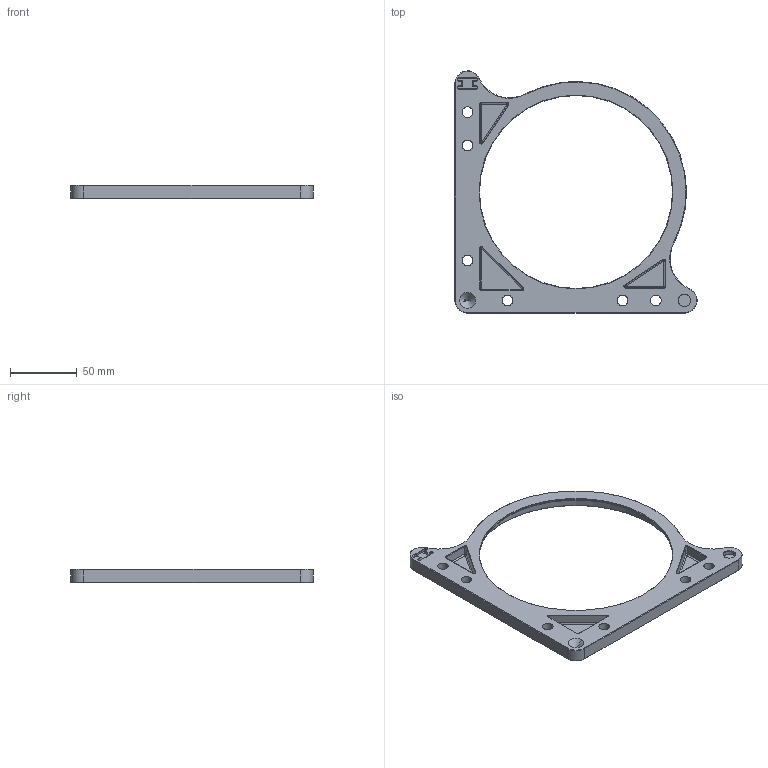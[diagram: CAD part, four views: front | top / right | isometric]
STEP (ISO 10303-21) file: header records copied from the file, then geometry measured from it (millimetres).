
FILE_DESCRIPTION (( 'STEP AP214' ), '1' );
FILE_NAME ('雄啣.STEP', '2026-09-23T03:13:00', ( '' ), ( '' ), 'SwSTEP 2.0', 'SolidWorks 2024', '' );
FILE_SCHEMA (( 'AUTOMOTIVE_DESIGN' ));
Length unit declared in the file: millimetre
Products named in the file (1): 动板
Bounding box: 182 x 181.99 x 10 mm (x, y, z)
Volume: 82104.3 mm3; surface area: 37958 mm2
Topology: 1 solids, 1 shells, 294 faces, 712 edges, 415 vertices
Faces by surface type: plane 104, cone 92, cylinder 87, sphere 11
Entity records: 8654 total; most frequent: CARTESIAN_POINT 1709, DIRECTION 1537, ORIENTED_EDGE 1396, EDGE_CURVE 698, AXIS2_PLACEMENT_3D 584, VERTEX_POINT 412, LINE 369, VECTOR 369
